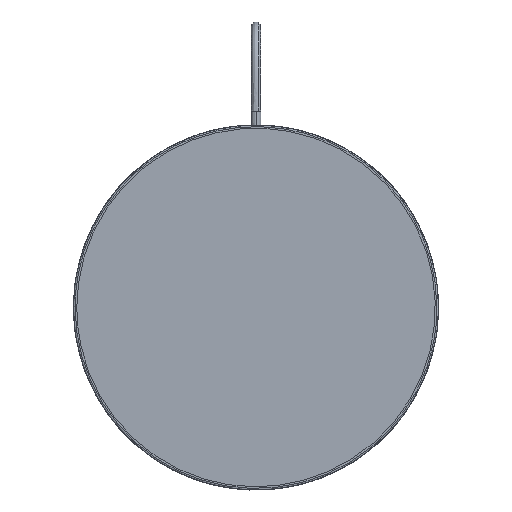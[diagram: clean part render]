
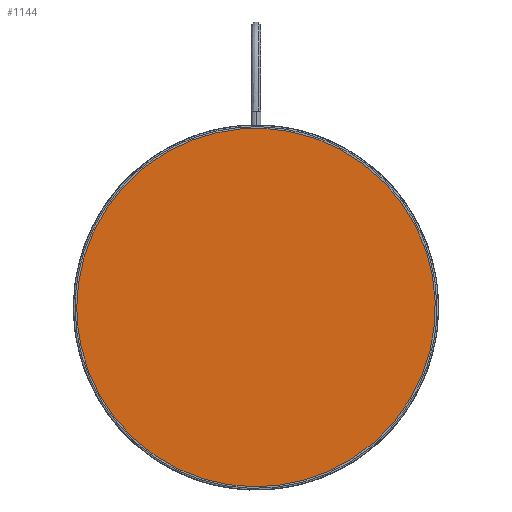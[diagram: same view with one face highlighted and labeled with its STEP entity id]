
A CAD part, left-side view. The second image highlights one B-rep face of the part: STEP entity #1144.
In plain terms, the highlighted planar face has unit normal (-1, 0, 0).
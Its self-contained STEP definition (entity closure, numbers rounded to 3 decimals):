
#28=PLANE('',#2661);
#1144=ADVANCED_FACE('',(#1217),#28,.T.);
#1217=FACE_OUTER_BOUND('',#1292,.T.);
#1292=EDGE_LOOP('',(#1506));
#1506=ORIENTED_EDGE('',*,*,#1834,.F.);
#1834=EDGE_CURVE('',#2369,#2369,#2153,.T.);
#2153=(
BOUNDED_CURVE()
B_SPLINE_CURVE(2,(#5667,#5668,#5669,#5670,#5671,#5672,#5673,#5674,#5675),
 .UNSPECIFIED.,.T.,.F.)
B_SPLINE_CURVE_WITH_KNOTS((3,2,2,2,3),(0.,83.253,166.505,
249.758,333.01),.UNSPECIFIED.)
CURVE()
GEOMETRIC_REPRESENTATION_ITEM()
RATIONAL_B_SPLINE_CURVE((1.,0.707,1.,0.707,1.,0.707,
1.,0.707,1.))
REPRESENTATION_ITEM('')
);
#2369=VERTEX_POINT('',#5636);
#2661=AXIS2_PLACEMENT_3D('',#4801,#2720,$);
#2720=DIRECTION('',(-1.,0.,0.));
#4801=CARTESIAN_POINT('',(-22.,-54.06,-54.06));
#5636=CARTESIAN_POINT('',(-22.,53.,0.));
#5667=CARTESIAN_POINT('',(-22.,53.,0.));
#5668=CARTESIAN_POINT('',(-22.,53.,53.));
#5669=CARTESIAN_POINT('',(-22.,0.,53.));
#5670=CARTESIAN_POINT('',(-22.,-53.,53.));
#5671=CARTESIAN_POINT('',(-22.,-53.,0.));
#5672=CARTESIAN_POINT('',(-22.,-53.,-53.));
#5673=CARTESIAN_POINT('',(-22.,0.,-53.));
#5674=CARTESIAN_POINT('',(-22.,53.,-53.));
#5675=CARTESIAN_POINT('',(-22.,53.,0.));
